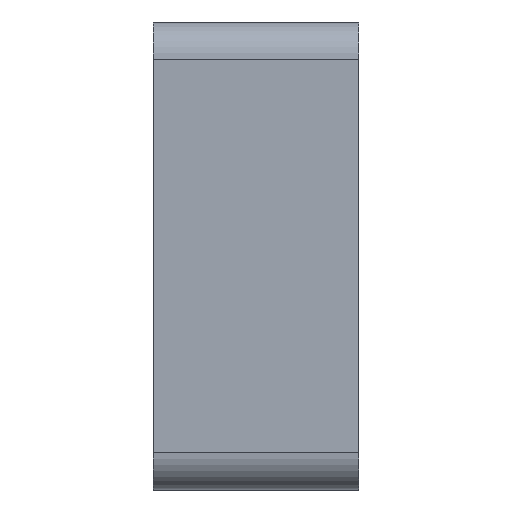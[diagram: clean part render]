
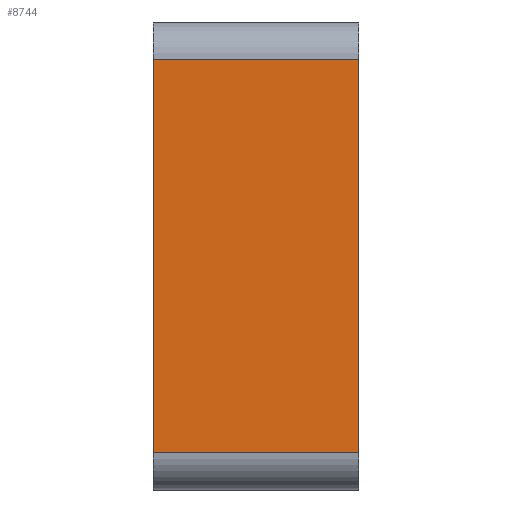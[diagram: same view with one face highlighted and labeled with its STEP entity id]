
A CAD part, left-side view. The second image highlights one B-rep face of the part: STEP entity #8744.
In plain terms, the highlighted planar face has unit normal (-1, 0, 0).
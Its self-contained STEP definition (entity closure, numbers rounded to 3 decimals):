
#964 = EDGE_CURVE ( 'NONE', #6121, #10943, #1316, .T. ) ;
#1316 = LINE ( 'NONE', #10564, #3346 ) ;
#1325 = LINE ( 'NONE', #10145, #5630 ) ;
#1478 = DIRECTION ( 'NONE',  ( 0., 0., 1. ) ) ;
#1918 = ORIENTED_EDGE ( 'NONE', *, *, #8304, .F. ) ;
#2107 = PLANE ( 'NONE',  #5913 ) ;
#2174 = VERTEX_POINT ( 'NONE', #8312 ) ;
#2617 = ORIENTED_EDGE ( 'NONE', *, *, #964, .T. ) ;
#2640 = ORIENTED_EDGE ( 'NONE', *, *, #6825, .T. ) ;
#3026 = CARTESIAN_POINT ( 'NONE',  ( -78., 5.5, -12.5 ) ) ;
#3346 = VECTOR ( 'NONE', #6206, 1000. ) ;
#3549 = CARTESIAN_POINT ( 'NONE',  ( -78., 5.5, -10.5 ) ) ;
#3624 = LINE ( 'NONE', #11013, #8263 ) ;
#3642 = CARTESIAN_POINT ( 'NONE',  ( -78., -5.5, 10.5 ) ) ;
#3889 = DIRECTION ( 'NONE',  ( 0., 0., -1. ) ) ;
#4493 = VECTOR ( 'NONE', #7254, 1000. ) ;
#5275 = EDGE_LOOP ( 'NONE', ( #1918, #2617, #5831, #2640 ) ) ;
#5630 = VECTOR ( 'NONE', #1478, 1000. ) ;
#5643 = VERTEX_POINT ( 'NONE', #3642 ) ;
#5778 = DIRECTION ( 'NONE',  ( 0., 0., 1. ) ) ;
#5831 = ORIENTED_EDGE ( 'NONE', *, *, #8285, .T. ) ;
#5913 = AXIS2_PLACEMENT_3D ( 'NONE', #3026, #9091, #3889 ) ;
#6110 = FACE_OUTER_BOUND ( 'NONE', #5275, .T. ) ;
#6121 = VERTEX_POINT ( 'NONE', #3549 ) ;
#6206 = DIRECTION ( 'NONE',  ( 0., -1., 0. ) ) ;
#6358 = CARTESIAN_POINT ( 'NONE',  ( -78., 5.5, 10.5 ) ) ;
#6777 = CARTESIAN_POINT ( 'NONE',  ( -78., -5.5, -10.5 ) ) ;
#6825 = EDGE_CURVE ( 'NONE', #5643, #2174, #9146, .T. ) ;
#7254 = DIRECTION ( 'NONE',  ( 0., 1., 0. ) ) ;
#8263 = VECTOR ( 'NONE', #5778, 1000. ) ;
#8285 = EDGE_CURVE ( 'NONE', #10943, #5643, #3624, .T. ) ;
#8304 = EDGE_CURVE ( 'NONE', #6121, #2174, #1325, .T. ) ;
#8312 = CARTESIAN_POINT ( 'NONE',  ( -78., 5.5, 10.5 ) ) ;
#8744 = ADVANCED_FACE ( 'NONE', ( #6110 ), #2107, .F. ) ;
#9091 = DIRECTION ( 'NONE',  ( 1., 0., 0. ) ) ;
#9146 = LINE ( 'NONE', #6358, #4493 ) ;
#10145 = CARTESIAN_POINT ( 'NONE',  ( -78., 5.5, -12.5 ) ) ;
#10564 = CARTESIAN_POINT ( 'NONE',  ( -78., 5.5, -10.5 ) ) ;
#10943 = VERTEX_POINT ( 'NONE', #6777 ) ;
#11013 = CARTESIAN_POINT ( 'NONE',  ( -78., -5.5, -12.5 ) ) ;
